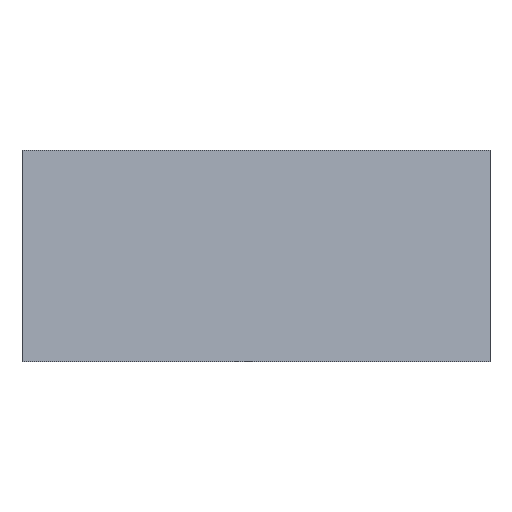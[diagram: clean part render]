
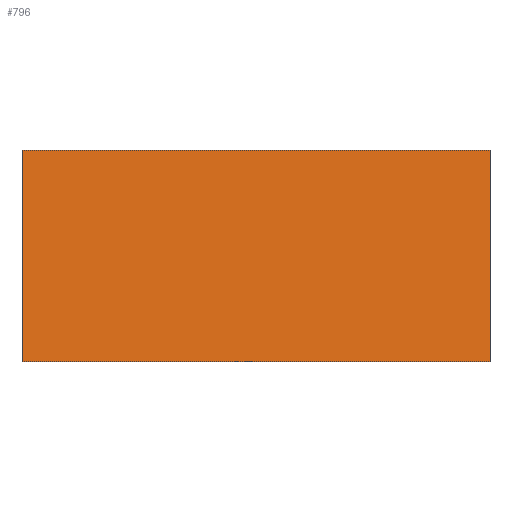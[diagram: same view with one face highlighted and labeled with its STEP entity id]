
A CAD part, front view. The second image highlights one B-rep face of the part: STEP entity #796.
In plain terms, the highlighted planar face has unit normal (0, -0.995, 0.104).
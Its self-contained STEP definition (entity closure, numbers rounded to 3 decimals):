
#32 = PLANE('',#33);
#33 = AXIS2_PLACEMENT_3D('',#34,#35,#36);
#34 = CARTESIAN_POINT('',(-29.,-1.118,4.333));
#35 = DIRECTION('',(1.,-0.,-0.));
#36 = DIRECTION('',(0.,0.,-1.));
#169 = VERTEX_POINT('',#170);
#170 = CARTESIAN_POINT('',(-29.,-4.863,-20.833));
#184 = PLANE('',#185);
#185 = AXIS2_PLACEMENT_3D('',#186,#187,#188);
#186 = CARTESIAN_POINT('',(-400.,388.,-20.833));
#187 = DIRECTION('',(0.,0.,1.));
#188 = DIRECTION('',(-1.,-0.,0.));
#196 = EDGE_CURVE('',#169,#197,#199,.T.);
#197 = VERTEX_POINT('',#198);
#198 = CARTESIAN_POINT('',(-29.,-2.673,0.));
#199 = SURFACE_CURVE('',#200,(#204,#211),.PCURVE_S1.);
#200 = LINE('',#201,#202);
#201 = CARTESIAN_POINT('',(-29.,-6.79,-39.167));
#202 = VECTOR('',#203,1.);
#203 = DIRECTION('',(-0.,0.105,0.995));
#204 = PCURVE('',#32,#205);
#205 = DEFINITIONAL_REPRESENTATION('',(#206),#210);
#206 = LINE('',#207,#208);
#207 = CARTESIAN_POINT('',(43.5,-5.672));
#208 = VECTOR('',#209,1.);
#209 = DIRECTION('',(-0.995,0.105));
#210 = ( GEOMETRIC_REPRESENTATION_CONTEXT(2) 
PARAMETRIC_REPRESENTATION_CONTEXT() REPRESENTATION_CONTEXT('2D SPACE',''
  ) );
#211 = PCURVE('',#212,#217);
#212 = PLANE('',#213);
#213 = AXIS2_PLACEMENT_3D('',#214,#215,#216);
#214 = CARTESIAN_POINT('',(-29.,-6.79,-39.167));
#215 = DIRECTION('',(0.,0.995,-0.105));
#216 = DIRECTION('',(0.,-0.105,-0.995));
#217 = DEFINITIONAL_REPRESENTATION('',(#218),#222);
#218 = LINE('',#219,#220);
#219 = CARTESIAN_POINT('',(-0.,0.));
#220 = VECTOR('',#221,1.);
#221 = DIRECTION('',(-1.,0.));
#222 = ( GEOMETRIC_REPRESENTATION_CONTEXT(2) 
PARAMETRIC_REPRESENTATION_CONTEXT() REPRESENTATION_CONTEXT('2D SPACE',''
  ) );
#240 = PLANE('',#241);
#241 = AXIS2_PLACEMENT_3D('',#242,#243,#244);
#242 = CARTESIAN_POINT('',(-400.,388.,0.));
#243 = DIRECTION('',(0.,0.,1.));
#244 = DIRECTION('',(-1.,-0.,0.));
#519 = PLANE('',#520);
#520 = AXIS2_PLACEMENT_3D('',#521,#522,#523);
#521 = CARTESIAN_POINT('',(17.,-1.118,4.333));
#522 = DIRECTION('',(1.,-0.,-0.));
#523 = DIRECTION('',(0.,0.,-1.));
#751 = EDGE_CURVE('',#752,#197,#754,.T.);
#752 = VERTEX_POINT('',#753);
#753 = CARTESIAN_POINT('',(17.,-2.673,0.));
#754 = SURFACE_CURVE('',#755,(#759,#766),.PCURVE_S1.);
#755 = LINE('',#756,#757);
#756 = CARTESIAN_POINT('',(-214.5,-2.673,0.));
#757 = VECTOR('',#758,1.);
#758 = DIRECTION('',(-1.,-0.,0.));
#759 = PCURVE('',#240,#760);
#760 = DEFINITIONAL_REPRESENTATION('',(#761),#765);
#761 = LINE('',#762,#763);
#762 = CARTESIAN_POINT('',(-185.5,390.673));
#763 = VECTOR('',#764,1.);
#764 = DIRECTION('',(1.,-0.));
#765 = ( GEOMETRIC_REPRESENTATION_CONTEXT(2) 
PARAMETRIC_REPRESENTATION_CONTEXT() REPRESENTATION_CONTEXT('2D SPACE',''
  ) );
#766 = PCURVE('',#212,#767);
#767 = DEFINITIONAL_REPRESENTATION('',(#768),#772);
#768 = LINE('',#769,#770);
#769 = CARTESIAN_POINT('',(-39.382,185.5));
#770 = VECTOR('',#771,1.);
#771 = DIRECTION('',(-0.,1.));
#772 = ( GEOMETRIC_REPRESENTATION_CONTEXT(2) 
PARAMETRIC_REPRESENTATION_CONTEXT() REPRESENTATION_CONTEXT('2D SPACE',''
  ) );
#796 = ADVANCED_FACE('',(#797),#212,.F.);
#797 = FACE_BOUND('',#798,.T.);
#798 = EDGE_LOOP('',(#799,#800,#823,#844));
#799 = ORIENTED_EDGE('',*,*,#196,.F.);
#800 = ORIENTED_EDGE('',*,*,#801,.F.);
#801 = EDGE_CURVE('',#802,#169,#804,.T.);
#802 = VERTEX_POINT('',#803);
#803 = CARTESIAN_POINT('',(17.,-4.863,-20.833));
#804 = SURFACE_CURVE('',#805,(#809,#816),.PCURVE_S1.);
#805 = LINE('',#806,#807);
#806 = CARTESIAN_POINT('',(-214.5,-4.863,-20.833));
#807 = VECTOR('',#808,1.);
#808 = DIRECTION('',(-1.,-0.,0.));
#809 = PCURVE('',#212,#810);
#810 = DEFINITIONAL_REPRESENTATION('',(#811),#815);
#811 = LINE('',#812,#813);
#812 = CARTESIAN_POINT('',(-18.434,185.5));
#813 = VECTOR('',#814,1.);
#814 = DIRECTION('',(-0.,1.));
#815 = ( GEOMETRIC_REPRESENTATION_CONTEXT(2) 
PARAMETRIC_REPRESENTATION_CONTEXT() REPRESENTATION_CONTEXT('2D SPACE',''
  ) );
#816 = PCURVE('',#184,#817);
#817 = DEFINITIONAL_REPRESENTATION('',(#818),#822);
#818 = LINE('',#819,#820);
#819 = CARTESIAN_POINT('',(-185.5,392.863));
#820 = VECTOR('',#821,1.);
#821 = DIRECTION('',(1.,-0.));
#822 = ( GEOMETRIC_REPRESENTATION_CONTEXT(2) 
PARAMETRIC_REPRESENTATION_CONTEXT() REPRESENTATION_CONTEXT('2D SPACE',''
  ) );
#823 = ORIENTED_EDGE('',*,*,#824,.T.);
#824 = EDGE_CURVE('',#802,#752,#825,.T.);
#825 = SURFACE_CURVE('',#826,(#830,#837),.PCURVE_S1.);
#826 = LINE('',#827,#828);
#827 = CARTESIAN_POINT('',(17.,-6.79,-39.167));
#828 = VECTOR('',#829,1.);
#829 = DIRECTION('',(-0.,0.105,0.995));
#830 = PCURVE('',#212,#831);
#831 = DEFINITIONAL_REPRESENTATION('',(#832),#836);
#832 = LINE('',#833,#834);
#833 = CARTESIAN_POINT('',(-0.,-46.));
#834 = VECTOR('',#835,1.);
#835 = DIRECTION('',(-1.,0.));
#836 = ( GEOMETRIC_REPRESENTATION_CONTEXT(2) 
PARAMETRIC_REPRESENTATION_CONTEXT() REPRESENTATION_CONTEXT('2D SPACE',''
  ) );
#837 = PCURVE('',#519,#838);
#838 = DEFINITIONAL_REPRESENTATION('',(#839),#843);
#839 = LINE('',#840,#841);
#840 = CARTESIAN_POINT('',(43.5,-5.672));
#841 = VECTOR('',#842,1.);
#842 = DIRECTION('',(-0.995,0.105));
#843 = ( GEOMETRIC_REPRESENTATION_CONTEXT(2) 
PARAMETRIC_REPRESENTATION_CONTEXT() REPRESENTATION_CONTEXT('2D SPACE',''
  ) );
#844 = ORIENTED_EDGE('',*,*,#751,.T.);
